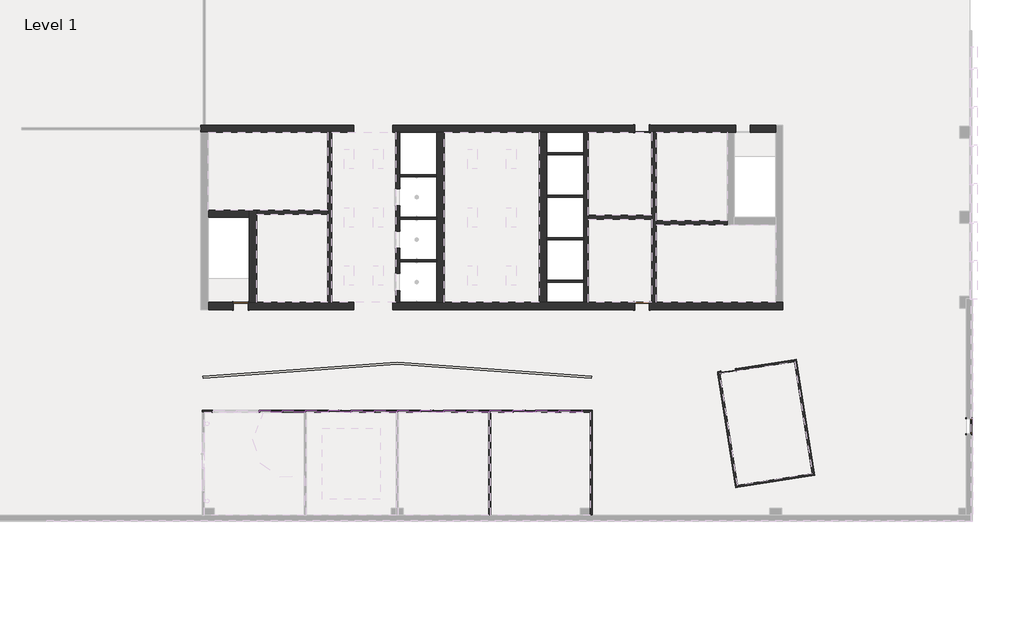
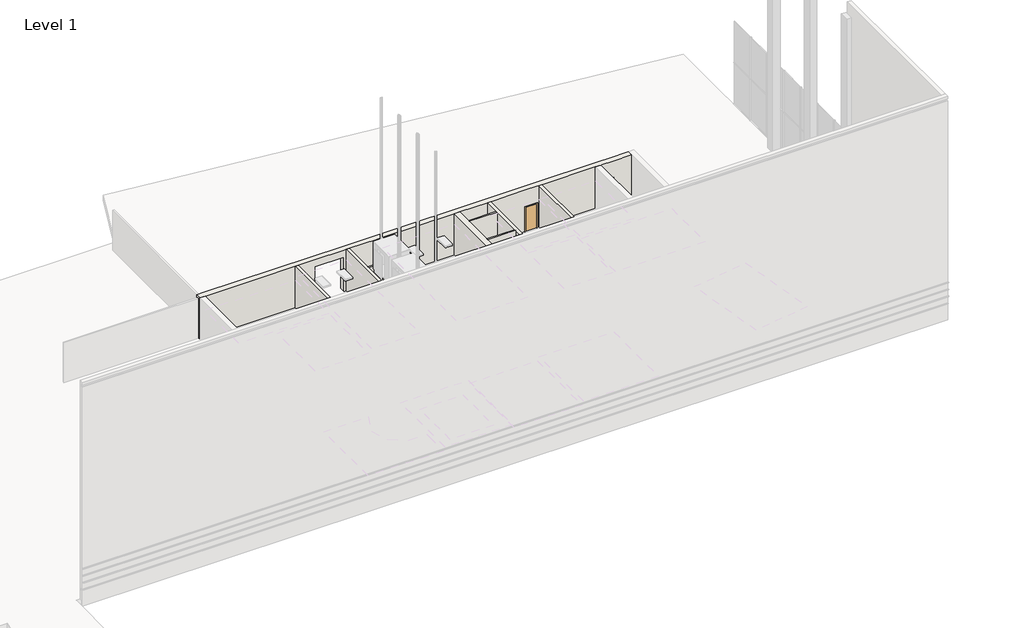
# One storey, part 7 of 23: 39 members, 28 walls, 11 plates, 8 doors.
"""IFC4 building model written with IfcOpenShell, lengths in millimetres."""

from ifc_helpers import new_model, si_unit, point, frame, frame_2d, origin, origin_with_axes, place, context, project, spatial, polyline, circle_curve, trimmed, segment, composite_curve, outline, extrude, faceted_brep, transform, mapped, element, save
from components import curtain_wall_dbl_glass_curtain_wall_dbl_glass_523d1701, door_a1797ceb, door_3c99239a, door_aec9db07, door_e057ad39, member_5adcf121, member_e7ed5742, member_19b6149e, member_c3403f11, system_panel_glazed_9bc9b24f, system_panel_glazed_76e4750d

model = new_model("IFC4")

# Units and contexts
model_context = context("Model", 3, world=origin())
ifc_project = project(units=[si_unit("LENGTHUNIT", "METRE", prefix="MILLI")], contexts=[model_context])

# Site, building, storey
site = spatial("IfcSite", under=ifc_project)
building = spatial("IfcBuilding", under=site)
storey = spatial("IfcBuildingStorey", under=building, Name="Level 1", Elevation=0.0)

# Doors
placement = place(None, origin())
curtain_wall_dbl_glass_curtain_wall_dbl_glass_shape = curtain_wall_dbl_glass_curtain_wall_dbl_glass_523d1701(model_context)
element("IfcDoor", 1, ObjectType="Curtain Wall Dbl Glass : Curtain Wall Dbl Glass", at=placement, inside=storey, context=model_context, shape_type="MappedRepresentation", body=[
    mapped(curtain_wall_dbl_glass_curtain_wall_dbl_glass_shape, transform((-24482.1740426, -21198.8103492, -25.4), x_axis=(-1.0, 0.0, 0.0), y_axis=(0.0, -1.0, 0.0), z_axis=(0.0, 0.0, 1.0))),
])
element("IfcDoor", 2, ObjectType="Curtain Wall Dbl Glass : Curtain Wall Dbl Glass", at=placement, inside=storey, context=model_context, shape_type="MappedRepresentation", body=[
    mapped(curtain_wall_dbl_glass_curtain_wall_dbl_glass_shape, transform((-18697.3240426, -21198.8103492, -25.4), x_axis=(-1.0, 0.0, 0.0), y_axis=(0.0, -1.0, 0.0), z_axis=(0.0, 0.0, 1.0))),
])
element("IfcDoor", 3, ObjectType="Curtain Wall Dbl Glass : Curtain Wall Dbl Glass", at=placement, inside=storey, context=model_context, shape_type="MappedRepresentation", body=[
    mapped(curtain_wall_dbl_glass_curtain_wall_dbl_glass_shape, transform((-12912.4740426, -21198.8103492, -25.4), x_axis=(-1.0, 0.0, 0.0), y_axis=(0.0, -1.0, 0.0), z_axis=(0.0, 0.0, 1.0))),
])
door_shape = door_a1797ceb(model_context)
element("IfcDoor", 4, ObjectType="Single-Flush : 36\" x 84\"", at=placement, inside=storey, context=model_context, shape_type="MappedRepresentation", body=[
    mapped(door_shape, transform((-99.7033757, -18682.6442583, 0.0), x_axis=(-0.9876883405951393, -0.15643446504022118, 0.0), y_axis=(0.15643446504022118, -0.9876883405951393, 0.0), z_axis=(0.0, 0.0, 1.0))),
])
door_2_shape = door_3c99239a(model_context)
element("IfcDoor", 5, ObjectType="Single-Flush : 36\" x 84\"", at=placement, inside=storey, context=model_context, shape_type="MappedRepresentation", body=[
    mapped(door_2_shape, transform((-30700.0713641, -14594.8103492, 0.0), x_axis=(1.0, 0.0, 0.0), y_axis=(0.0, 1.0, 0.0), z_axis=(0.0, 0.0, 1.0))),
])
element("IfcDoor", 6, ObjectType="Single-Flush : 36\" x 84\"", at=placement, inside=storey, context=model_context, shape_type="MappedRepresentation", body=[
    mapped(door_2_shape, transform((-5525.0427926, -14594.8103492, 0.0), x_axis=(1.0, 0.0, 0.0), y_axis=(0.0, 1.0, 0.0), z_axis=(0.0, 0.0, 1.0))),
])
door_3_shape = door_aec9db07(model_context)
element("IfcDoor", 7, ObjectType="Single-Flush : 36\" x 84\"", at=placement, inside=storey, context=model_context, shape_type="MappedRepresentation", body=[
    mapped(door_3_shape, transform((-5525.0427926, -3469.6103492, 0.0), x_axis=(1.0, 0.0, 0.0), y_axis=(0.0, 1.0, 0.0), z_axis=(0.0, 0.0, 1.0))),
])
door_4_shape = door_e057ad39(model_context)
element("IfcDoor", 8, ObjectType="Single-Glass 3 : 36\" x 84\"", at=placement, inside=storey, context=model_context, shape_type="MappedRepresentation", body=[
    mapped(door_4_shape, transform((15006.7929088, -22143.3728492, 0.0), x_axis=(0.0, -1.0, 0.0), y_axis=(1.0, 0.0, 0.0), z_axis=(0.0, 0.0, 1.0))),
])

# Members
member_shape = member_5adcf121(model_context)
element("IfcMember", 9, ObjectType="Rectangular Mullion : 2.5\" x 5\" rectangular", at=placement, inside=storey, context=model_context, shape_type="MappedRepresentation", body=[
    mapped(member_shape, transform((-29543.9177926, -21198.8103492, 38.1), x_axis=(1.0, 0.0, 0.0), y_axis=(0.0, -1.0, 0.0), z_axis=(0.0, 0.0, -1.0))),
])
element("IfcMember", 10, ObjectType="Rectangular Mullion : 2.5\" x 5\" rectangular", at=placement, inside=storey, context=model_context, shape_type="MappedRepresentation", body=[
    mapped(member_shape, transform((-28097.7052926, -21198.8103492, 38.1), x_axis=(1.0, 0.0, 0.0), y_axis=(0.0, -1.0, 0.0), z_axis=(0.0, 0.0, -1.0))),
])
element("IfcMember", 11, ObjectType="Rectangular Mullion : 2.5\" x 5\" rectangular", at=placement, inside=storey, context=model_context, shape_type="MappedRepresentation", body=[
    mapped(member_shape, transform((-26651.4927926, -21198.8103492, 38.1), x_axis=(1.0, 0.0, 0.0), y_axis=(0.0, -1.0, 0.0), z_axis=(0.0, 0.0, -1.0))),
])
element("IfcMember", 12, ObjectType="Rectangular Mullion : 2.5\" x 5\" rectangular", at=placement, inside=storey, context=model_context, shape_type="MappedRepresentation", body=[
    mapped(member_shape, transform((-25205.2802926, -21198.8103492, 38.1), x_axis=(1.0, 0.0, 0.0), y_axis=(0.0, -1.0, 0.0), z_axis=(0.0, 0.0, -1.0))),
])
element("IfcMember", 13, ObjectType="Rectangular Mullion : 2.5\" x 5\" rectangular", at=placement, inside=storey, context=model_context, shape_type="MappedRepresentation", body=[
    mapped(member_shape, transform((-23759.0677926, -21198.8103492, 38.1), x_axis=(1.0, 0.0, 0.0), y_axis=(0.0, -1.0, 0.0), z_axis=(0.0, 0.0, -1.0))),
])
element("IfcMember", 14, ObjectType="Rectangular Mullion : 2.5\" x 5\" rectangular", at=placement, inside=storey, context=model_context, shape_type="MappedRepresentation", body=[
    mapped(member_shape, transform((-22312.8552926, -21198.8103492, 38.1), x_axis=(1.0, 0.0, 0.0), y_axis=(0.0, -1.0, 0.0), z_axis=(0.0, 0.0, -1.0))),
])
element("IfcMember", 15, ObjectType="Rectangular Mullion : 2.5\" x 5\" rectangular", at=placement, inside=storey, context=model_context, shape_type="MappedRepresentation", body=[
    mapped(member_shape, transform((-20866.6427926, -21198.8103492, 38.1), x_axis=(1.0, 0.0, 0.0), y_axis=(0.0, -1.0, 0.0), z_axis=(0.0, 0.0, -1.0))),
])
element("IfcMember", 16, ObjectType="Rectangular Mullion : 2.5\" x 5\" rectangular", at=placement, inside=storey, context=model_context, shape_type="MappedRepresentation", body=[
    mapped(member_shape, transform((-19420.4302926, -21198.8103492, 38.1), x_axis=(1.0, 0.0, 0.0), y_axis=(0.0, -1.0, 0.0), z_axis=(0.0, 0.0, -1.0))),
])
element("IfcMember", 17, ObjectType="Rectangular Mullion : 2.5\" x 5\" rectangular", at=placement, inside=storey, context=model_context, shape_type="MappedRepresentation", body=[
    mapped(member_shape, transform((-17974.2177926, -21198.8103492, 38.1), x_axis=(1.0, 0.0, 0.0), y_axis=(0.0, -1.0, 0.0), z_axis=(0.0, 0.0, -1.0))),
])
element("IfcMember", 18, ObjectType="Rectangular Mullion : 2.5\" x 5\" rectangular", at=placement, inside=storey, context=model_context, shape_type="MappedRepresentation", body=[
    mapped(member_shape, transform((-16528.0052926, -21198.8103492, 38.1), x_axis=(1.0, 0.0, 0.0), y_axis=(0.0, -1.0, 0.0), z_axis=(0.0, 0.0, -1.0))),
])
element("IfcMember", 19, ObjectType="Rectangular Mullion : 2.5\" x 5\" rectangular", at=placement, inside=storey, context=model_context, shape_type="MappedRepresentation", body=[
    mapped(member_shape, transform((-15081.7927926, -21198.8103492, 38.1), x_axis=(1.0, 0.0, 0.0), y_axis=(0.0, -1.0, 0.0), z_axis=(0.0, 0.0, -1.0))),
])
element("IfcMember", 20, ObjectType="Rectangular Mullion : 2.5\" x 5\" rectangular", at=placement, inside=storey, context=model_context, shape_type="MappedRepresentation", body=[
    mapped(member_shape, transform((-13635.5802926, -21198.8103492, 38.1), x_axis=(1.0, 0.0, 0.0), y_axis=(0.0, -1.0, 0.0), z_axis=(0.0, 0.0, -1.0))),
])
element("IfcMember", 21, ObjectType="Rectangular Mullion : 2.5\" x 5\" rectangular", at=placement, inside=storey, context=model_context, shape_type="MappedRepresentation", body=[
    mapped(member_shape, transform((-12189.3677926, -21198.8103492, 38.1), x_axis=(1.0, 0.0, 0.0), y_axis=(0.0, -1.0, 0.0), z_axis=(0.0, 0.0, -1.0))),
])
element("IfcMember", 22, ObjectType="Rectangular Mullion : 2.5\" x 5\" rectangular", at=placement, inside=storey, context=model_context, shape_type="MappedRepresentation", body=[
    mapped(member_shape, transform((-10743.1552926, -21198.8103492, 38.1), x_axis=(1.0, 0.0, 0.0), y_axis=(0.0, -1.0, 0.0), z_axis=(0.0, 0.0, -1.0))),
])
member_2_shape = member_e7ed5742(model_context)
element("IfcMember", 23, ObjectType="Rectangular Mullion : 2.5\" x 5\" rectangular", at=placement, inside=storey, context=model_context, shape_type="MappedRepresentation", body=[
    mapped(member_2_shape, transform((-9296.9427926, -21198.8103492, 38.1), x_axis=(1.0, 0.0, 0.0), y_axis=(0.0, -1.0, 0.0), z_axis=(0.0, 0.0, -1.0))),
])
member_3_shape = member_19b6149e(model_context)
element("IfcMember", 24, ObjectType="Rectangular Mullion : 2.5\" x 5\" rectangular", at=placement, inside=storey, context=model_context, shape_type="MappedRepresentation", body=[
    mapped(member_3_shape, transform((-9296.9427926, -21198.8103492, 2413.0), x_axis=(0.0, 0.0, 1.0), y_axis=(0.0, -1.0, 0.0), z_axis=(1.0, 0.0, 0.0))),
])
element("IfcMember", 25, ObjectType="Rectangular Mullion : 2.5\" x 5\" rectangular", at=placement, inside=storey, context=model_context, shape_type="MappedRepresentation", body=[
    mapped(member_3_shape, transform((-28097.7052926, -21198.8103492, 2413.0), x_axis=(0.0, 0.0, 1.0), y_axis=(0.0, -1.0, 0.0), z_axis=(1.0, 0.0, 0.0))),
])
element("IfcMember", 26, ObjectType="Rectangular Mullion : 2.5\" x 5\" rectangular", at=placement, inside=storey, context=model_context, shape_type="MappedRepresentation", body=[
    mapped(member_3_shape, transform((-26651.4927926, -21198.8103492, 2413.0), x_axis=(0.0, 0.0, 1.0), y_axis=(0.0, -1.0, 0.0), z_axis=(1.0, 0.0, 0.0))),
])
element("IfcMember", 27, ObjectType="Rectangular Mullion : 2.5\" x 5\" rectangular", at=placement, inside=storey, context=model_context, shape_type="MappedRepresentation", body=[
    mapped(member_3_shape, transform((-25205.2802926, -21198.8103492, 2413.0), x_axis=(0.0, 0.0, 1.0), y_axis=(0.0, -1.0, 0.0), z_axis=(1.0, 0.0, 0.0))),
])
element("IfcMember", 28, ObjectType="Rectangular Mullion : 2.5\" x 5\" rectangular", at=placement, inside=storey, context=model_context, shape_type="MappedRepresentation", body=[
    mapped(member_3_shape, transform((-23759.0677926, -21198.8103492, 2413.0), x_axis=(0.0, 0.0, 1.0), y_axis=(0.0, -1.0, 0.0), z_axis=(1.0, 0.0, 0.0))),
])
element("IfcMember", 29, ObjectType="Rectangular Mullion : 2.5\" x 5\" rectangular", at=placement, inside=storey, context=model_context, shape_type="MappedRepresentation", body=[
    mapped(member_3_shape, transform((-22312.8552926, -21198.8103492, 2413.0), x_axis=(0.0, 0.0, 1.0), y_axis=(0.0, -1.0, 0.0), z_axis=(1.0, 0.0, 0.0))),
])
element("IfcMember", 30, ObjectType="Rectangular Mullion : 2.5\" x 5\" rectangular", at=placement, inside=storey, context=model_context, shape_type="MappedRepresentation", body=[
    mapped(member_3_shape, transform((-20866.6427926, -21198.8103492, 2413.0), x_axis=(0.0, 0.0, 1.0), y_axis=(0.0, -1.0, 0.0), z_axis=(1.0, 0.0, 0.0))),
])
element("IfcMember", 31, ObjectType="Rectangular Mullion : 2.5\" x 5\" rectangular", at=placement, inside=storey, context=model_context, shape_type="MappedRepresentation", body=[
    mapped(member_3_shape, transform((-19420.4302926, -21198.8103492, 2413.0), x_axis=(0.0, 0.0, 1.0), y_axis=(0.0, -1.0, 0.0), z_axis=(1.0, 0.0, 0.0))),
])
element("IfcMember", 32, ObjectType="Rectangular Mullion : 2.5\" x 5\" rectangular", at=placement, inside=storey, context=model_context, shape_type="MappedRepresentation", body=[
    mapped(member_3_shape, transform((-17974.2177926, -21198.8103492, 2413.0), x_axis=(0.0, 0.0, 1.0), y_axis=(0.0, -1.0, 0.0), z_axis=(1.0, 0.0, 0.0))),
])
element("IfcMember", 33, ObjectType="Rectangular Mullion : 2.5\" x 5\" rectangular", at=placement, inside=storey, context=model_context, shape_type="MappedRepresentation", body=[
    mapped(member_3_shape, transform((-16528.0052926, -21198.8103492, 2413.0), x_axis=(0.0, 0.0, 1.0), y_axis=(0.0, -1.0, 0.0), z_axis=(1.0, 0.0, 0.0))),
])
element("IfcMember", 34, ObjectType="Rectangular Mullion : 2.5\" x 5\" rectangular", at=placement, inside=storey, context=model_context, shape_type="MappedRepresentation", body=[
    mapped(member_3_shape, transform((-15081.7927926, -21198.8103492, 2413.0), x_axis=(0.0, 0.0, 1.0), y_axis=(0.0, -1.0, 0.0), z_axis=(1.0, 0.0, 0.0))),
])
element("IfcMember", 35, ObjectType="Rectangular Mullion : 2.5\" x 5\" rectangular", at=placement, inside=storey, context=model_context, shape_type="MappedRepresentation", body=[
    mapped(member_3_shape, transform((-13635.5802926, -21198.8103492, 2413.0), x_axis=(0.0, 0.0, 1.0), y_axis=(0.0, -1.0, 0.0), z_axis=(1.0, 0.0, 0.0))),
])
element("IfcMember", 36, ObjectType="Rectangular Mullion : 2.5\" x 5\" rectangular", at=placement, inside=storey, context=model_context, shape_type="MappedRepresentation", body=[
    mapped(member_3_shape, transform((-12189.3677926, -21198.8103492, 2413.0), x_axis=(0.0, 0.0, 1.0), y_axis=(0.0, -1.0, 0.0), z_axis=(1.0, 0.0, 0.0))),
])
element("IfcMember", 37, ObjectType="Rectangular Mullion : 2.5\" x 5\" rectangular", at=placement, inside=storey, context=model_context, shape_type="MappedRepresentation", body=[
    mapped(member_3_shape, transform((-10743.1552926, -21198.8103492, 2413.0), x_axis=(0.0, 0.0, 1.0), y_axis=(0.0, -1.0, 0.0), z_axis=(1.0, 0.0, 0.0))),
])
element("IfcMember", 38, ObjectType="Rectangular Mullion : 2.5\" x 5\" rectangular", at=placement, inside=storey, context=model_context, shape_type="MappedRepresentation", body=[
    mapped(member_3_shape, transform((-28097.7052926, -21198.8103492, -25.4), x_axis=(0.0, 0.0, -1.0), y_axis=(0.0, -1.0, 0.0), z_axis=(-1.0, 0.0, 0.0))),
])
element("IfcMember", 39, ObjectType="Rectangular Mullion : 2.5\" x 5\" rectangular", at=placement, inside=storey, context=model_context, shape_type="MappedRepresentation", body=[
    mapped(member_3_shape, transform((-22312.8552926, -21198.8103492, -25.4), x_axis=(0.0, 0.0, -1.0), y_axis=(0.0, -1.0, 0.0), z_axis=(-1.0, 0.0, 0.0))),
])
element("IfcMember", 40, ObjectType="Rectangular Mullion : 2.5\" x 5\" rectangular", at=placement, inside=storey, context=model_context, shape_type="MappedRepresentation", body=[
    mapped(member_3_shape, transform((-16528.0052926, -21198.8103492, -25.4), x_axis=(0.0, 0.0, -1.0), y_axis=(0.0, -1.0, 0.0), z_axis=(-1.0, 0.0, 0.0))),
])
element("IfcMember", 41, ObjectType="Rectangular Mullion : 2.5\" x 5\" rectangular", at=placement, inside=storey, context=model_context, shape_type="MappedRepresentation", body=[
    mapped(member_3_shape, transform((-10743.1552926, -21198.8103492, -25.4), x_axis=(0.0, 0.0, -1.0), y_axis=(0.0, -1.0, 0.0), z_axis=(-1.0, 0.0, 0.0))),
])
member_4_shape = member_c3403f11(model_context)
element("IfcMember", 42, ObjectType="Rectangular Mullion : 2.5\" x 5\" rectangular", at=placement, inside=storey, context=model_context, shape_type="MappedRepresentation", body=[
    mapped(member_4_shape, transform((-26651.4927926, -21198.8103492, -25.4), x_axis=(0.0, 0.0, -1.0), y_axis=(0.0, -1.0, 0.0), z_axis=(-1.0, 0.0, 0.0))),
])
element("IfcMember", 43, ObjectType="Rectangular Mullion : 2.5\" x 5\" rectangular", at=placement, inside=storey, context=model_context, shape_type="MappedRepresentation", body=[
    mapped(member_4_shape, transform((-20866.6427926, -21198.8103492, -25.4), x_axis=(0.0, 0.0, -1.0), y_axis=(0.0, -1.0, 0.0), z_axis=(-1.0, 0.0, 0.0))),
])
element("IfcMember", 44, ObjectType="Rectangular Mullion : 2.5\" x 5\" rectangular", at=placement, inside=storey, context=model_context, shape_type="MappedRepresentation", body=[
    mapped(member_4_shape, transform((-15081.7927926, -21198.8103492, -25.4), x_axis=(0.0, 0.0, -1.0), y_axis=(0.0, -1.0, 0.0), z_axis=(-1.0, 0.0, 0.0))),
])
element("IfcMember", 45, ObjectType="Rectangular Mullion : 2.5\" x 5\" rectangular", at=placement, inside=storey, context=model_context, shape_type="MappedRepresentation", body=[
    mapped(member_4_shape, transform((-23790.8177926, -21198.8103492, -25.4), x_axis=(0.0, 0.0, -1.0), y_axis=(0.0, -1.0, 0.0), z_axis=(-1.0, 0.0, 0.0))),
])
element("IfcMember", 46, ObjectType="Rectangular Mullion : 2.5\" x 5\" rectangular", at=placement, inside=storey, context=model_context, shape_type="MappedRepresentation", body=[
    mapped(member_4_shape, transform((-18005.9677926, -21198.8103492, -25.4), x_axis=(0.0, 0.0, -1.0), y_axis=(0.0, -1.0, 0.0), z_axis=(-1.0, 0.0, 0.0))),
])
element("IfcMember", 47, ObjectType="Rectangular Mullion : 2.5\" x 5\" rectangular", at=placement, inside=storey, context=model_context, shape_type="MappedRepresentation", body=[
    mapped(member_4_shape, transform((-12221.1177926, -21198.8103492, -25.4), x_axis=(0.0, 0.0, -1.0), y_axis=(0.0, -1.0, 0.0), z_axis=(-1.0, 0.0, 0.0))),
])

# Plates
system_panel_glazed_shape = system_panel_glazed_9bc9b24f(model_context)
element("IfcPlate", 48, ObjectType="System Panel : Glazed", at=placement, inside=storey, context=model_context, shape_type="MappedRepresentation", body=[
    mapped(system_panel_glazed_shape, transform((-10035.9240426, -21198.8103492, 38.1), x_axis=(1.0, 0.0, 0.0), y_axis=(0.0, 1.0, 0.0), z_axis=(0.0, 0.0, 1.0))),
])
system_panel_glazed_2_shape = system_panel_glazed_76e4750d(model_context)
element("IfcPlate", 49, ObjectType="System Panel : Glazed", at=placement, inside=storey, context=model_context, shape_type="MappedRepresentation", body=[
    mapped(system_panel_glazed_2_shape, transform((-28820.8115426, -21198.8103492, 38.1), x_axis=(1.0, 0.0, 0.0), y_axis=(0.0, 1.0, 0.0), z_axis=(0.0, 0.0, 1.0))),
])
element("IfcPlate", 50, ObjectType="System Panel : Glazed", at=placement, inside=storey, context=model_context, shape_type="MappedRepresentation", body=[
    mapped(system_panel_glazed_2_shape, transform((-27374.5990426, -21198.8103492, 38.1), x_axis=(1.0, 0.0, 0.0), y_axis=(0.0, 1.0, 0.0), z_axis=(0.0, 0.0, 1.0))),
])
element("IfcPlate", 51, ObjectType="System Panel : Glazed", at=placement, inside=storey, context=model_context, shape_type="MappedRepresentation", body=[
    mapped(system_panel_glazed_2_shape, transform((-25928.3865426, -21198.8103492, 38.1), x_axis=(1.0, 0.0, 0.0), y_axis=(0.0, 1.0, 0.0), z_axis=(0.0, 0.0, 1.0))),
])
element("IfcPlate", 52, ObjectType="System Panel : Glazed", at=placement, inside=storey, context=model_context, shape_type="MappedRepresentation", body=[
    mapped(system_panel_glazed_2_shape, transform((-23035.9615426, -21198.8103492, 38.1), x_axis=(1.0, 0.0, 0.0), y_axis=(0.0, 1.0, 0.0), z_axis=(0.0, 0.0, 1.0))),
])
element("IfcPlate", 53, ObjectType="System Panel : Glazed", at=placement, inside=storey, context=model_context, shape_type="MappedRepresentation", body=[
    mapped(system_panel_glazed_2_shape, transform((-21589.7490426, -21198.8103492, 38.1), x_axis=(1.0, 0.0, 0.0), y_axis=(0.0, 1.0, 0.0), z_axis=(0.0, 0.0, 1.0))),
])
element("IfcPlate", 54, ObjectType="System Panel : Glazed", at=placement, inside=storey, context=model_context, shape_type="MappedRepresentation", body=[
    mapped(system_panel_glazed_2_shape, transform((-20143.5365426, -21198.8103492, 38.1), x_axis=(1.0, 0.0, 0.0), y_axis=(0.0, 1.0, 0.0), z_axis=(0.0, 0.0, 1.0))),
])
element("IfcPlate", 55, ObjectType="System Panel : Glazed", at=placement, inside=storey, context=model_context, shape_type="MappedRepresentation", body=[
    mapped(system_panel_glazed_2_shape, transform((-17251.1115426, -21198.8103492, 38.1), x_axis=(1.0, 0.0, 0.0), y_axis=(0.0, 1.0, 0.0), z_axis=(0.0, 0.0, 1.0))),
])
element("IfcPlate", 56, ObjectType="System Panel : Glazed", at=placement, inside=storey, context=model_context, shape_type="MappedRepresentation", body=[
    mapped(system_panel_glazed_2_shape, transform((-15804.8990426, -21198.8103492, 38.1), x_axis=(1.0, 0.0, 0.0), y_axis=(0.0, 1.0, 0.0), z_axis=(0.0, 0.0, 1.0))),
])
element("IfcPlate", 57, ObjectType="System Panel : Glazed", at=placement, inside=storey, context=model_context, shape_type="MappedRepresentation", body=[
    mapped(system_panel_glazed_2_shape, transform((-14358.6865426, -21198.8103492, 38.1), x_axis=(1.0, 0.0, 0.0), y_axis=(0.0, 1.0, 0.0), z_axis=(0.0, 0.0, 1.0))),
])
element("IfcPlate", 58, ObjectType="System Panel : Glazed", at=placement, inside=storey, context=model_context, shape_type="MappedRepresentation", body=[
    mapped(system_panel_glazed_2_shape, transform((-11466.2615426, -21198.8103492, 38.1), x_axis=(1.0, 0.0, 0.0), y_axis=(0.0, 1.0, 0.0), z_axis=(0.0, 0.0, 1.0))),
])

# Walls
element("IfcWall", 59, ObjectType="Core-shaft 10\" Concrete", at=placement, inside=storey, context=model_context, shape_type="SweptSolid", body=[
    extrude(outline(polyline([(-14366.2103492, 3657.6), (-3698.2103492, 3657.6), (-3698.2103492, 0.0), (-7222.4603492, 0.0), (-7222.4603492, 2159.0), (-8301.9603492, 2159.0), (-8301.9603492, 0.0), (-9889.4603492, 0.0), (-9889.4603492, 2159.0), (-10968.9603492, 2159.0), (-10968.9603492, 0.0), (-12556.4603492, 0.0), (-12556.4603492, 2159.0), (-13635.9603492, 2159.0), (-13635.9603492, 0.0), (-14366.2103492, 0.0), (-14366.2103492, 3657.6)])), frame((-20979.1285069, 0.0, 0.0), z_axis=(1.0, 0.0, 0.0), x_axis=(0.0, 1.0, 0.0)), (0.0, 0.0, 1.0), 254.0),
])
element("IfcWall", 60, ObjectType="Core-shaft 10\" Concrete", at=placement, inside=storey, context=model_context, shape_type="Brep", body=[
    faceted_brep([(-24992.3285069, -14366.2103492, 0.0), (-24992.3285069, -3698.2103492, 0.0), (-24992.3285069, -3698.2103492, 3657.6), (-24992.3285069, -14366.2103492, 3657.6), (-25246.3285069, -14366.2103492, 0.0), (-25246.3285069, -14366.2103492, 3657.6), (-25246.3285069, -8829.0103492, 3657.6), (-25246.3285069, -8575.0103492, 3657.6), (-25246.3285069, -3698.2103492, 3657.6), (-25246.3285069, -3698.2103492, 0.0), (-25246.3285069, -8575.0103492, 0.0), (-25246.3285069, -8829.0103492, 0.0)], [[[0, 1, 2, 3]], [[4, 5, 6, 7, 8, 9, 10, 11]], [[1, 0, 4, 11, 10, 9]], [[3, 2, 8, 7, 6, 5]], [[2, 1, 9, 8]], [[0, 3, 5, 4]]]),
])
element("IfcWall", 61, ObjectType="Core-shaft 10\" Concrete", at=placement, inside=storey, context=model_context, shape_type="SweptSolid", body=[
    extrude(outline(polyline([(-25246.3285069, -8829.0103492), (-29709.4713641, -8829.0103492), (-29709.4713641, -8575.0103492), (-25246.3285069, -8575.0103492), (-25246.3285069, -8829.0103492)])), origin_with_axes(), (0.0, 0.0, 1.0), 3657.6),
])
element("IfcWall", 62, ObjectType="Core-shaft 10\" Concrete", at=placement, inside=storey, context=model_context, shape_type="SweptSolid", body=[
    extrude(outline(polyline([(-8903.2427926, -3698.2103492), (-8903.2427926, -14366.2103492), (-9157.2427926, -14366.2103492), (-9157.2427926, -3698.2103492), (-8903.2427926, -3698.2103492)])), origin_with_axes(), (0.0, 0.0, 1.0), 3657.6),
])
element("IfcWall", 63, ObjectType="Core-shaft 10\" Concrete", at=placement, inside=storey, context=model_context, shape_type="Brep", body=[
    faceted_brep([(-4636.0427926, -14366.2103492, 0.0), (-4636.0427926, -9489.4103492, 0.0), (-4636.0427926, -9235.4103492, 0.0), (-4636.0427926, -3698.2103492, 0.0), (-4636.0427926, -3698.2103492, 3657.6), (-4636.0427926, -9235.4103492, 3657.6), (-4636.0427926, -9489.4103492, 3657.6), (-4636.0427926, -14366.2103492, 3657.6), (-4890.0427926, -14366.2103492, 0.0), (-4890.0427926, -14366.2103492, 3657.6), (-4890.0427926, -3698.2103492, 3657.6), (-4890.0427926, -3698.2103492, 0.0)], [[[0, 1, 2, 3, 4, 5, 6, 7]], [[8, 9, 10, 11]], [[3, 2, 1, 0, 8, 11]], [[7, 6, 5, 4, 10, 9]], [[4, 3, 11, 10]], [[0, 7, 9, 8]]]),
])
element("IfcWall", 64, ObjectType="Core-shaft 10\" Concrete", at=placement, inside=storey, context=model_context, shape_type="SweptSolid", body=[
    extrude(outline(polyline([(-4636.0427926, -9235.4103492), (-172.8999355, -9235.4103492), (-172.8999355, -9489.4103492), (-4636.0427926, -9489.4103492), (-4636.0427926, -9235.4103492)])), origin_with_axes(), (0.0, 0.0, 1.0), 3657.6),
])
element("IfcWall", 65, ObjectType="Core-shaft 10\" Concrete", at=placement, inside=storey, context=model_context, shape_type="SweptSolid", body=[
    extrude(outline(polyline([(-8903.2427926, -8905.2103492), (-4890.0427926, -8905.2103492), (-4890.0427926, -9159.2103492), (-8903.2427926, -9159.2103492), (-8903.2427926, -8905.2103492)])), origin_with_axes(), (0.0, 0.0, 1.0), 3657.6),
])
element("IfcWall", 66, ObjectType="Core-shaft 18\" Concrete", at=placement, inside=storey, context=model_context, shape_type="Brep", body=[
    faceted_brep([(3325.0429217, -14366.2103492, 0.0), (2867.8429217, -14366.2103492, 0.0), (-4636.0427926, -14366.2103492, 0.0), (-4890.0427926, -14366.2103492, 0.0), (-5067.8427926, -14366.2103492, 0.0), (-5067.8427926, -14366.2103492, 2133.6), (-5982.2427926, -14366.2103492, 2133.6), (-5982.2427926, -14366.2103492, 0.0), (-8903.2427926, -14366.2103492, 0.0), (-9157.2427926, -14366.2103492, 0.0), (-11497.2428559, -14366.2103492, 0.0), (-11954.4428559, -14366.2103492, 0.0), (-17927.9284437, -14366.2103492, 0.0), (-18385.1284437, -14366.2103492, 0.0), (-20725.1285069, -14366.2103492, 0.0), (-20979.1285069, -14366.2103492, 0.0), (-21167.8142212, -14366.2103492, 0.0), (-21167.8142212, -14366.2103492, 3048.0), (-23606.2142212, -14366.2103492, 3048.0), (-23606.2142212, -14366.2103492, 0.0), (-24992.3285069, -14366.2103492, 0.0), (-25246.3285069, -14366.2103492, 0.0), (-29709.4713641, -14366.2103492, 0.0), (-30166.6713641, -14366.2103492, 0.0), (-30242.8713641, -14366.2103492, 0.0), (-30242.8713641, -14366.2103492, 2133.6), (-31157.2713641, -14366.2103492, 2133.6), (-31157.2713641, -14366.2103492, 0.0), (-32750.2142212, -14366.2103492, 0.0), (-32750.2142212, -14366.2103492, 3657.6), (-30166.6713641, -14366.2103492, 3657.6), (-29709.4713641, -14366.2103492, 3657.6), (-25246.3285069, -14366.2103492, 3657.6), (-24992.3285069, -14366.2103492, 3657.6), (-20979.1285069, -14366.2103492, 3657.6), (-20725.1285069, -14366.2103492, 3657.6), (-18385.1284437, -14366.2103492, 3657.6), (-17927.9284437, -14366.2103492, 3657.6), (-11954.4428559, -14366.2103492, 3657.6), (-11497.2428559, -14366.2103492, 3657.6), (-9157.2427926, -14366.2103492, 3657.6), (-8903.2427926, -14366.2103492, 3657.6), (-4890.0427926, -14366.2103492, 3657.6), (-4636.0427926, -14366.2103492, 3657.6), (2867.8429217, -14366.2103492, 3657.6), (3325.0429217, -14366.2103492, 3657.6), (-5067.8427926, -14823.4103492, 2133.6), (-5067.8427926, -14823.4103492, 0.0), (3325.0429217, -14823.4103492, 0.0), (3325.0429217, -14823.4103492, 3657.6), (-32750.2142212, -14823.4103492, 3657.6), (-32750.2142212, -14823.4103492, 0.0), (-31157.2713641, -14823.4103492, 0.0), (-31157.2713641, -14823.4103492, 2133.6), (-30242.8713641, -14823.4103492, 2133.6), (-30242.8713641, -14823.4103492, 0.0), (-23606.2142212, -14823.4103492, 0.0), (-23606.2142212, -14823.4103492, 3048.0), (-21167.8142212, -14823.4103492, 3048.0), (-21167.8142212, -14823.4103492, 0.0), (-5982.2427926, -14823.4103492, 0.0), (-5982.2427926, -14823.4103492, 2133.6)], [[[0, 1, 2, 3, 4, 5, 6, 7, 8, 9, 10, 11, 12, 13, 14, 15, 16, 17, 18, 19, 20, 21, 22, 23, 24, 25, 26, 27, 28, 29, 30, 31, 32, 33, 34, 35, 36, 37, 38, 39, 40, 41, 42, 43, 44, 45]], [[46, 47, 48, 49, 50, 51, 52, 53, 54, 55, 56, 57, 58, 59, 60, 61]], [[52, 51, 28, 27]], [[56, 55, 24, 23, 22, 21, 20, 19]], [[60, 59, 16, 15, 14, 13, 12, 11, 10, 9, 8, 7]], [[48, 47, 4, 3, 2, 1, 0]], [[45, 44, 43, 42, 41, 40, 39, 38, 37, 36, 35, 34, 33, 32, 31, 30, 29, 50, 49]], [[17, 58, 57, 18]], [[58, 17, 16, 59]], [[18, 57, 56, 19]], [[25, 24, 55, 54]], [[26, 25, 54, 53]], [[27, 26, 53, 52]], [[0, 45, 49, 48]], [[29, 28, 51, 50]], [[5, 4, 47, 46]], [[6, 5, 46, 61]], [[7, 6, 61, 60]]]),
])
element("IfcWall", 67, ObjectType="Core-shaft 18\" Concrete", at=placement, inside=storey, context=model_context, shape_type="Brep", body=[
    faceted_brep([(-5067.8427926, -3698.2103492, 2133.6), (-5067.8427926, -3698.2103492, 0.0), (-4890.0427926, -3698.2103492, 0.0), (-4636.0427926, -3698.2103492, 0.0), (-172.8999355, -3698.2103492, 0.0), (284.3000645, -3698.2103492, 0.0), (360.5000645, -3698.2103492, 0.0), (360.5000645, -3698.2103492, 2133.6), (1274.9000645, -3698.2103492, 2133.6), (1274.9000645, -3698.2103492, 0.0), (2867.8429217, -3698.2103492, 0.0), (2867.8429217, -3698.2103492, 3657.6), (1274.9000645, -3698.2103492, 3657.6), (360.5000645, -3698.2103492, 3657.6), (284.3000645, -3698.2103492, 3657.6), (-172.8999355, -3698.2103492, 3657.6), (-4636.0427926, -3698.2103492, 3657.6), (-4890.0427926, -3698.2103492, 3657.6), (-5067.8427926, -3698.2103492, 3657.6), (-5982.2427926, -3698.2103492, 3657.6), (-8903.2427926, -3698.2103492, 3657.6), (-9157.2427926, -3698.2103492, 3657.6), (-11497.2428559, -3698.2103492, 3657.6), (-11954.4428559, -3698.2103492, 3657.6), (-17927.9284437, -3698.2103492, 3657.6), (-18385.1284437, -3698.2103492, 3657.6), (-20725.1285069, -3698.2103492, 3657.6), (-20979.1285069, -3698.2103492, 3657.6), (-21167.8142212, -3698.2103492, 3657.6), (-23606.2142212, -3698.2103492, 3657.6), (-24992.3285069, -3698.2103492, 3657.6), (-25246.3285069, -3698.2103492, 3657.6), (-32750.2142212, -3698.2103492, 3657.6), (-33207.4142212, -3698.2103492, 3657.6), (-33207.4142212, -3698.2103492, 0.0), (-32750.2142212, -3698.2103492, 0.0), (-25246.3285069, -3698.2103492, 0.0), (-24992.3285069, -3698.2103492, 0.0), (-23606.2142212, -3698.2103492, 0.0), (-23606.2142212, -3698.2103492, 3048.0), (-21167.8142212, -3698.2103492, 3048.0), (-21167.8142212, -3698.2103492, 0.0), (-20979.1285069, -3698.2103492, 0.0), (-20725.1285069, -3698.2103492, 0.0), (-18385.1284437, -3698.2103492, 0.0), (-17927.9284437, -3698.2103492, 0.0), (-11954.4428559, -3698.2103492, 0.0), (-11497.2428559, -3698.2103492, 0.0), (-9157.2427926, -3698.2103492, 0.0), (-8903.2427926, -3698.2103492, 0.0), (-5982.2427926, -3698.2103492, 0.0), (-5982.2427926, -3698.2103492, 2133.6), (360.5000645, -3241.0103492, 0.0), (-5067.8427926, -3241.0103492, 0.0), (-5067.8427926, -3241.0103492, 2133.6), (-5982.2427926, -3241.0103492, 2133.6), (-5982.2427926, -3241.0103492, 0.0), (-21167.8142212, -3241.0103492, 0.0), (-21167.8142212, -3241.0103492, 3048.0), (-23606.2142212, -3241.0103492, 3048.0), (-23606.2142212, -3241.0103492, 0.0), (-33207.4142212, -3241.0103492, 0.0), (-33207.4142212, -3241.0103492, 3657.6), (-32750.2142212, -3241.0103492, 3657.6), (-23606.2142212, -3241.0103492, 3657.6), (-21167.8142212, -3241.0103492, 3657.6), (-5982.2427926, -3241.0103492, 3657.6), (-5067.8427926, -3241.0103492, 3657.6), (360.5000645, -3241.0103492, 3657.6), (1274.9000645, -3241.0103492, 3657.6), (2867.8429217, -3241.0103492, 3657.6), (2867.8429217, -3241.0103492, 0.0), (1274.9000645, -3241.0103492, 0.0), (1274.9000645, -3241.0103492, 2133.6), (360.5000645, -3241.0103492, 2133.6), (-33207.4142212, -3393.4103492, 3657.6)], [[[0, 1, 2, 3, 4, 5, 6, 7, 8, 9, 10, 11, 12, 13, 14, 15, 16, 17, 18, 19, 20, 21, 22, 23, 24, 25, 26, 27, 28, 29, 30, 31, 32, 33, 34, 35, 36, 37, 38, 39, 40, 41, 42, 43, 44, 45, 46, 47, 48, 49, 50, 51]], [[52, 53, 54, 55, 56, 57, 58, 59, 60, 61, 62, 63, 64, 65, 66, 67, 68, 69, 70, 71, 72, 73, 74]], [[34, 61, 60, 38, 37, 36, 35]], [[72, 71, 10, 9]], [[50, 49, 48, 47, 46, 45, 44, 43, 42, 41, 57, 56]], [[6, 5, 4, 3, 2, 1, 53, 52]], [[33, 32, 31, 30, 29, 28, 27, 26, 25, 24, 23, 22, 21, 20, 19, 18, 17, 16, 15, 14, 13, 12, 11, 70, 69, 68, 67, 66, 65, 64, 63, 62, 75]], [[39, 59, 58, 40]], [[59, 39, 38, 60]], [[40, 58, 57, 41]], [[7, 6, 52, 74]], [[8, 7, 74, 73]], [[9, 8, 73, 72]], [[11, 10, 71, 70]], [[54, 53, 1, 0]], [[55, 54, 0, 51]], [[56, 55, 51, 50]], [[33, 75, 62, 61, 34]]]),
])
element("IfcWall", 68, ObjectType="Core-shaft 18\" Concrete", at=placement, inside=storey, context=model_context, shape_type="SweptSolid", body=[
    extrude(outline(polyline([(-18385.1284437, -14366.2103492), (-18385.1284437, -3698.2103492), (-17927.9284437, -3698.2103492), (-17927.9284437, -14366.2103492), (-18385.1284437, -14366.2103492)])), origin_with_axes(), (0.0, 0.0, 1.0), 3657.6),
])
element("IfcWall", 69, ObjectType="Core-shaft 18\" Concrete", at=placement, inside=storey, context=model_context, shape_type="Brep", body=[
    faceted_brep([(-29709.4713641, -14366.2103492, 0.0), (-29709.4713641, -8829.0103492, 0.0), (-29709.4713641, -8575.0103492, 0.0), (-29709.4713641, -8575.0103492, 3657.6), (-29709.4713641, -8829.0103492, 3657.6), (-29709.4713641, -14366.2103492, 3657.6), (-30166.6713641, -14366.2103492, 0.0), (-30166.6713641, -14366.2103492, 3657.6), (-30166.6713641, -9032.2103492, 3657.6), (-30166.6713641, -8575.0103492, 3657.6), (-30166.6713641, -8575.0103492, 0.0), (-30166.6713641, -9032.2103492, 0.0)], [[[0, 1, 2, 3, 4, 5]], [[6, 7, 8, 9, 10, 11]], [[2, 1, 0, 6, 11, 10]], [[5, 4, 3, 9, 8, 7]], [[3, 2, 10, 9]], [[0, 5, 7, 6]]]),
])
element("IfcWall", 70, ObjectType="Core-shaft 18\" Concrete", at=placement, inside=storey, context=model_context, shape_type="SweptSolid", body=[
    extrude(outline(polyline([(-32750.2142212, -8575.0103492), (-30166.6713641, -8575.0103492), (-30166.6713641, -9032.2103492), (-32750.2142212, -9032.2103492), (-32750.2142212, -8575.0103492)])), origin_with_axes(), (0.0, 0.0, 1.0), 3657.6),
])
element("IfcWall", 71, ObjectType="Core-shaft 18\" Concrete", at=placement, inside=storey, context=model_context, shape_type="SweptSolid", body=[
    extrude(outline(polyline([(-11954.4428559, -14366.2103492), (-11954.4428559, -3698.2103492), (-11497.2428559, -3698.2103492), (-11497.2428559, -14366.2103492), (-11954.4428559, -14366.2103492)])), origin_with_axes(), (0.0, 0.0, 1.0), 3657.6),
])
element("IfcWall", 72, ObjectType="Generic - 5\"", at=placement, inside=storey, context=model_context, shape_type="Brep", body=[
    faceted_brep([(5300.9078186, -25096.9642, 0.0), (5175.4713993, -25116.831377, 0.0), (484.1493191, -25859.8637991, 0.0), (484.1493191, -25859.8637991, 3657.6), (5175.4713993, -25116.831377, 3657.6), (5300.9078186, -25096.9642, 3657.6), (5320.7749956, -25222.4006192, 0.0), (5320.7749956, -25222.4006192, 3657.6), (504.0164962, -25985.3002183, 3657.6), (504.0164962, -25985.3002183, 0.0)], [[[0, 1, 2, 3, 4, 5]], [[6, 7, 8, 9]], [[2, 1, 0, 6, 9]], [[5, 4, 3, 8, 7]], [[0, 5, 7, 6]], [[3, 2, 9, 8]]]),
])
element("IfcWall", 73, ObjectType="Generic - 5\"", at=placement, inside=storey, context=model_context, shape_type="Brep", body=[
    faceted_brep([(4042.3085131, -17962.322488, 0.0), (4062.1756902, -18087.7589073, 0.0), (5175.4713993, -25116.831377, 0.0), (5175.4713993, -25116.831377, 3657.6), (4062.1756902, -18087.7589073, 3657.6), (4042.3085131, -17962.322488, 3657.6), (4167.7449324, -17942.455311, 0.0), (4167.7449324, -17942.455311, 3657.6), (5300.9078186, -25096.9642, 3657.6), (5300.9078186, -25096.9642, 0.0)], [[[0, 1, 2, 3, 4, 5]], [[6, 7, 8, 9]], [[2, 1, 0, 6, 9]], [[5, 4, 3, 8, 7]], [[0, 5, 7, 6]], [[3, 2, 9, 8]]]),
])
element("IfcWall", 74, ObjectType="Generic - 5\"", at=placement, inside=storey, context=model_context, shape_type="Brep", body=[
    faceted_brep([(-754.5828092, -18850.6585064, 0.0), (-629.14639, -18830.7913293, 0.0), (-541.3408965, -18816.8843054, 0.0), (-541.3408965, -18816.8843054, 2133.6), (361.8013221, -18673.8406306, 2133.6), (361.8013221, -18673.8406306, 0.0), (4062.1756902, -18087.7589073, 0.0), (4062.1756902, -18087.7589073, 3657.6), (-629.14639, -18830.7913293, 3657.6), (-754.5828092, -18850.6585064, 3657.6), (-561.2080736, -18691.4478861, 2133.6), (-561.2080736, -18691.4478861, 0.0), (-774.4499863, -18725.2220871, 0.0), (-774.4499863, -18725.2220871, 3657.6), (4042.3085131, -17962.322488, 3657.6), (4042.3085131, -17962.322488, 0.0), (341.9341451, -18548.4042113, 0.0), (341.9341451, -18548.4042113, 2133.6)], [[[0, 1, 2, 3, 4, 5, 6, 7, 8, 9]], [[10, 11, 12, 13, 14, 15, 16, 17]], [[16, 15, 6, 5]], [[12, 11, 2, 1, 0]], [[9, 8, 7, 14, 13]], [[0, 9, 13, 12]], [[7, 6, 15, 14]], [[3, 2, 11, 10]], [[4, 3, 10, 17]], [[5, 4, 17, 16]]]),
])
element("IfcWall", 75, ObjectType="Generic - 5\"", at=placement, inside=storey, context=model_context, shape_type="Brep", body=[
    faceted_brep([(504.0164962, -25985.3002183, 0.0), (484.1493191, -25859.8637991, 0.0), (-629.14639, -18830.7913293, 0.0), (-629.14639, -18830.7913293, 3657.6), (484.1493191, -25859.8637991, 3657.6), (504.0164962, -25985.3002183, 3657.6), (378.5800769, -26005.1673954, 0.0), (378.5800769, -26005.1673954, 3657.6), (-754.5828092, -18850.6585064, 3657.6), (-754.5828092, -18850.6585064, 0.0)], [[[0, 1, 2, 3, 4, 5]], [[6, 7, 8, 9]], [[2, 1, 0, 6, 9]], [[5, 4, 3, 8, 7]], [[0, 5, 7, 6]], [[3, 2, 9, 8]]]),
])
element("IfcWall", 76, ObjectType="Generic - 5\"", at=placement, inside=storey, context=model_context, shape_type="SweptSolid", body=[
    extrude(outline(polyline([(-18385.1284437, -11826.2103492), (-20725.1285069, -11826.2103492), (-20725.1285069, -11699.2103492), (-18385.1284437, -11699.2103492), (-18385.1284437, -11826.2103492)])), origin_with_axes(), (0.0, 0.0, 1.0), 3657.6),
])
element("IfcWall", 77, ObjectType="Generic - 5\"", at=placement, inside=storey, context=model_context, shape_type="SweptSolid", body=[
    extrude(outline(polyline([(-18385.1284437, -9159.2103492), (-20725.1285069, -9159.2103492), (-20725.1285069, -9032.2103492), (-18385.1284437, -9032.2103492), (-18385.1284437, -9159.2103492)])), origin_with_axes(), (0.0, 0.0, 1.0), 3657.6),
])
element("IfcWall", 78, ObjectType="Generic - 5\"", at=placement, inside=storey, context=model_context, shape_type="SweptSolid", body=[
    extrude(outline(polyline([(-18385.1284437, -6492.2103492), (-20725.1285069, -6492.2103492), (-20725.1285069, -6365.2103492), (-18385.1284437, -6365.2103492), (-18385.1284437, -6492.2103492)])), origin_with_axes(), (0.0, 0.0, 1.0), 3657.6),
])
element("IfcWall", 79, ObjectType="Generic - 5\"", at=placement, inside=storey, context=model_context, shape_type="SweptSolid", body=[
    extrude(outline(polyline([(-11497.2428559, -10302.2103492), (-9157.2427926, -10302.2103492), (-9157.2427926, -10429.2103492), (-11497.2428559, -10429.2103492), (-11497.2428559, -10302.2103492)])), origin_with_axes(), (0.0, 0.0, 1.0), 3657.6),
])
element("IfcWall", 80, ObjectType="Generic - 5\"", at=placement, inside=storey, context=model_context, shape_type="SweptSolid", body=[
    extrude(outline(polyline([(-11497.2428559, -7635.2103492), (-9157.2427926, -7635.2103492), (-9157.2427926, -7762.2103492), (-11497.2428559, -7762.2103492), (-11497.2428559, -7635.2103492)])), origin_with_axes(), (0.0, 0.0, 1.0), 3657.6),
])
element("IfcWall", 81, ObjectType="Generic - 5\"", at=placement, inside=storey, context=model_context, shape_type="SweptSolid", body=[
    extrude(outline(polyline([(-11497.2428559, -4968.2103492), (-9157.2427926, -4968.2103492), (-9157.2427926, -5095.2103492), (-11497.2428559, -5095.2103492), (-11497.2428559, -4968.2103492)])), origin_with_axes(), (0.0, 0.0, 1.0), 3657.6),
])
element("IfcWall", 82, ObjectType="Generic - 5\"", at=placement, inside=storey, context=model_context, shape_type="SweptSolid", body=[
    extrude(outline(polyline([(-11497.2428559, -12969.2103492), (-9157.2427926, -12969.2103492), (-9157.2427926, -13096.2103492), (-11497.2428559, -13096.2103492), (-11497.2428559, -12969.2103492)])), origin_with_axes(), (0.0, 0.0, 1.0), 3657.6),
])
element("IfcWall", 83, ObjectType="Interior - Generic - 5\"", at=placement, inside=storey, context=model_context, shape_type="Brep", body=[
    faceted_brep([(-8623.8427926, -27729.7853492, 0.0), (-8623.8427926, -21135.3103492, 0.0), (-8623.8427926, -21135.3103492, 3657.6), (-8623.8427926, -27729.7853492, 3657.6), (-8750.8427926, -27729.7853492, 0.0), (-8750.8427926, -27729.7853492, 3657.6), (-8750.8427926, -21262.3103492, 3657.6), (-8750.8427926, -21135.3103492, 3657.6), (-8750.8427926, -21135.3103492, 0.0), (-8750.8427926, -21262.3103492, 0.0)], [[[0, 1, 2, 3]], [[4, 5, 6, 7, 8, 9]], [[1, 0, 4, 9, 8]], [[3, 2, 7, 6, 5]], [[2, 1, 8, 7]], [[0, 3, 5, 4]]]),
])
element("IfcWall", 84, ObjectType="Interior - Generic - 5\"", at=placement, inside=storey, context=model_context, shape_type="Brep", body=[
    faceted_brep([(-33131.2142212, -21135.3103492, 3657.6), (-8750.8427926, -21135.3103492, 3657.6), (-8750.8427926, -21135.3103492, 0.0), (-9296.9427926, -21135.3103492, 0.0), (-9296.9427926, -21135.3103492, 2413.0), (-32436.3427926, -21135.3103492, 2413.0), (-32436.3427926, -21135.3103492, 0.0), (-33131.2142212, -21135.3103492, 0.0), (-8750.8427926, -21262.3103492, 3657.6), (-15018.2927926, -21262.3103492, 3657.6), (-15145.2927926, -21262.3103492, 3657.6), (-20814.0285069, -21262.3103492, 3657.6), (-20941.0285069, -21262.3103492, 3657.6), (-26587.9927926, -21262.3103492, 3657.6), (-26714.9927926, -21262.3103492, 3657.6), (-33004.2142212, -21262.3103492, 3657.6), (-33131.2142212, -21262.3103492, 3657.6), (-33131.2142212, -21262.3103492, 0.0), (-33004.2142212, -21262.3103492, 0.0), (-32436.3427926, -21262.3103492, 0.0), (-32436.3427926, -21262.3103492, 2413.0), (-9296.9427926, -21262.3103492, 2413.0), (-9296.9427926, -21262.3103492, 0.0), (-8750.8427926, -21262.3103492, 0.0)], [[[0, 1, 2, 3, 4, 5, 6, 7]], [[8, 9, 10, 11, 12, 13, 14, 15, 16, 17, 18, 19, 20, 21, 22, 23]], [[2, 23, 22, 3]], [[17, 7, 6, 19, 18]], [[1, 0, 16, 15, 14, 13, 12, 11, 10, 9, 8]], [[2, 1, 8, 23]], [[0, 7, 17, 16]], [[5, 20, 19, 6]], [[20, 5, 4, 21]], [[21, 4, 3, 22]]]),
])
element("IfcWall", 85, ObjectType="Interior - Generic - 5\"", at=placement, inside=storey, context=model_context, shape_type="SweptSolid", body=[
    extrude(outline(polyline([(-15018.2927926, -21262.3103492), (-15018.2927926, -27729.7853492), (-15145.2927926, -27729.7853492), (-15145.2927926, -21262.3103492), (-15018.2927926, -21262.3103492)])), origin_with_axes(), (0.0, 0.0, 1.0), 3657.6),
])
element("IfcWall", 86, ObjectType="Interior - Generic - 5\"", at=placement, inside=storey, context=model_context, shape_type="SweptSolid", body=[
    extrude(outline(composite_curve([segment(polyline([(-33058.6564765, -19128.0610235), (-33076.7719659, -19002.3596749)]), True, "CONTINUOUS"), segment(trimmed(circle_curve(frame_2d((-20877.5285069, -103651.5416158)), 85523.7133446), [point((-33076.7719659, -19002.3596749))], [point((-8678.2850479, -19002.3596749))], False, "CARTESIAN"), True, "CONTINUOUS"), segment(polyline([(-8678.2850479, -19002.3596749), (-8696.4005373, -19128.0610235)]), True, "CONTINUOUS"), segment(trimmed(circle_curve(frame_2d((-20877.5285069, -103651.5416158)), 85396.7133446), [point((-8696.4005373, -19128.0610235))], [point((-33058.6564765, -19128.0610235))], True, "CARTESIAN"), True, "CONTINUOUS")], self_intersect=False)), origin_with_axes(), (0.0, 0.0, 1.0), 1066.8),
])

save(model, "model.ifc")
